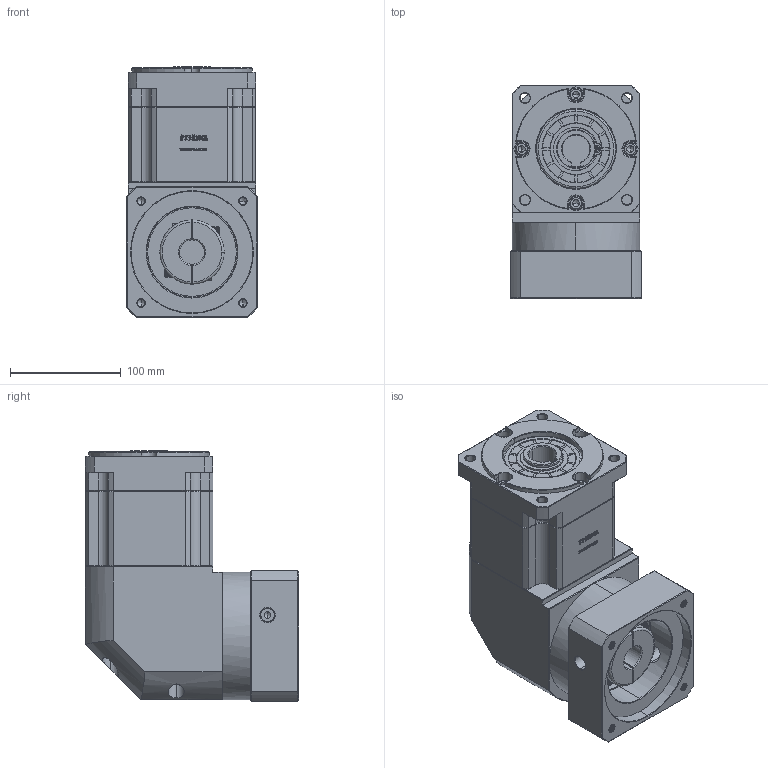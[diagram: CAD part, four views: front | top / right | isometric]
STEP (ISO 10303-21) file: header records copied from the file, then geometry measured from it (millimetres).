
FILE_DESCRIPTION (( 'STEP AP214' ), '1' );
FILE_NAME ('ZBR115A-K25-L2-22-110-130-M8.step', '2023-03-03T05:07:04', ( '' ), ( 'Microsoft' ), 'SwSTEP 2.0', 'SolidWorks 2016', '' );
FILE_SCHEMA (( 'AUTOMOTIVE_DESIGN' ));
Length unit declared in the file: millimetre
Products named in the file (1): ZBR115A-K25-L2-22-110-130-M8
Bounding box: 118 x 192.4 x 226.5 mm (x, y, z)
Volume: 3220724.2 mm3; surface area: 257153.2 mm2
Topology: 6 solids, 6 shells, 2927 faces, 7760 edges, 4979 vertices
Faces by surface type: plane 1552, bspline 598, cylinder 406, cone 363, torus 8
Entity records: 156332 total; most frequent: CARTESIAN_POINT 56158, ORIENTED_EDGE 15464, DIRECTION 11734, EDGE_CURVE 7732, LINE 5254, VECTOR 5254, VERTEX_POINT 4979, AXIS2_PLACEMENT_3D 3240
